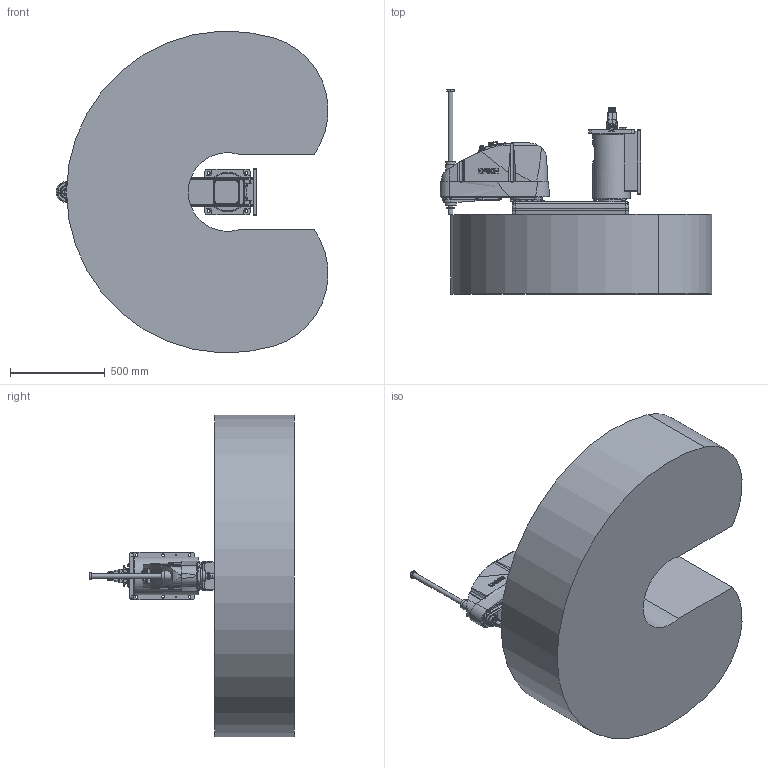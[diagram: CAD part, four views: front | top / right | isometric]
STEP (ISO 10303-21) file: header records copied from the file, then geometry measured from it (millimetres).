
FILE_DESCRIPTION( ( 'STEP AP214' ), '1' );
FILE_NAME( 'C:/Users/9607552/Desktop/GX20-B854SW_straight.stp', '2023-08-01T09:37:30', ( '' ), ( '' ), ' ', 'PARTsolutions', ' ' );
FILE_SCHEMA( ( 'AUTOMOTIVE_DESIGN { 1 0 10303 214 1 1 1 1 }' ) );
Length unit declared in the file: millimetre
Products named in the file (7): GX20-B854SWS-W; _Base sw; _Straight-B; _J1 Arm GX10-450 r/w; _J2 Arm GX10-s; _J3 Arm GX10-s (4); _GX10_20B-28_4
Assembly tree (6 placements, depth 2):
  GX20-B854SWS-W
    _Base sw
    _Straight-B
    _J1 Arm GX10-450 r/w
    _J2 Arm GX10-s
    _J3 Arm GX10-s (4)
    _GX10_20B-28_4
Bounding box: 1435.96 x 1080 x 1698.44 mm (x, y, z)
Volume: 740679880.9 mm3; surface area: 7493561.4 mm2
Topology: 6 solids, 6 shells, 2555 faces, 6274 edges, 4096 vertices
Faces by surface type: plane 1323, cylinder 800, cone 334, torus 65, bspline 32, sphere 1
Full cylindrical faces by diameter (mm): 1 x24, 1.18 x55, 2.5 x2, 3 x32, 3.242 x10, 3.3 x4, 4.2 x4, 4.8 x4, 5.1 x4, 5.25 x2, 5.34 x8, 5.4 x5, 5.5 x16, 6 x2, 6.2 x4, 6.647 x2, 6.8 x2, 7 x23, 7.59 x8, 8 x9, 8.5 x2, 9 x4, 10 x32, 11 x14, 12 x6, 12.25 x1, 13 x8, 14 x20, 14.25 x1, 16 x6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
Entity records: 96769 total; most frequent: CARTESIAN_POINT 18289, DIRECTION 11976, ORIENTED_EDGE 11132, EDGE_CURVE 5566, AXIS2_PLACEMENT_3D 4608, VERTEX_POINT 4003, EDGE_LOOP 3589, FACE_OUTER_BOUND 2949
